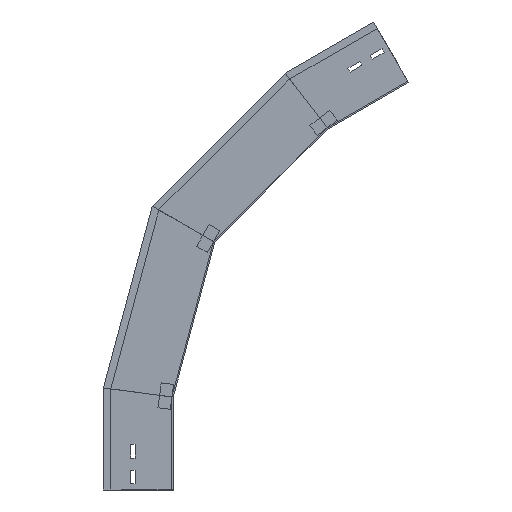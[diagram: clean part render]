
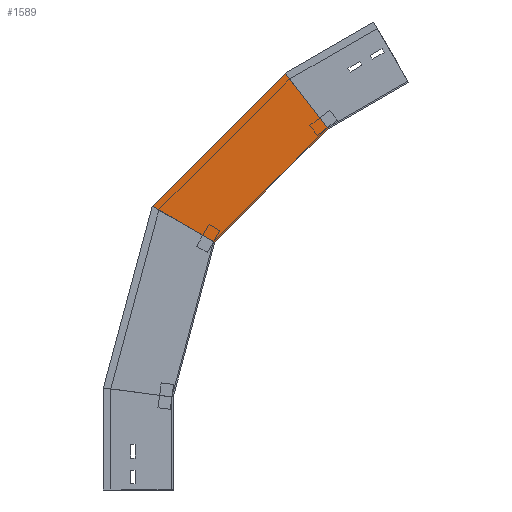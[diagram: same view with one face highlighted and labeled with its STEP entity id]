
A CAD part, left-side view. The second image highlights one B-rep face of the part: STEP entity #1589.
In plain terms, the highlighted planar face has unit normal (-1, 0, 0) as drawn and (1, 0, 0) by its records, which use the part's own axes.
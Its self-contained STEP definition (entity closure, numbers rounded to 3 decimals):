
#33 = CARTESIAN_POINT ( 'NONE',  ( 0., -128.762, 364.536 ) ) ;
#74 = VECTOR ( 'NONE', #1507, 1000. ) ;
#146 = EDGE_LOOP ( 'NONE', ( #968, #1616, #212, #435 ) ) ;
#212 = ORIENTED_EDGE ( 'NONE', *, *, #633, .F. ) ;
#245 = CARTESIAN_POINT ( 'NONE',  ( 0., -19.411, 147.444 ) ) ;
#275 = VERTEX_POINT ( 'NONE', #1124 ) ;
#281 = DIRECTION ( 'NONE',  ( 0., 0., -1. ) ) ;
#318 = DIRECTION ( 'NONE',  ( 1., 0., 0. ) ) ;
#427 = CARTESIAN_POINT ( 'NONE',  ( 0., 33.831, 458.409 ) ) ;
#431 = EDGE_CURVE ( 'NONE', #275, #771, #1691, .T. ) ;
#435 = ORIENTED_EDGE ( 'NONE', *, *, #431, .F. ) ;
#488 = VERTEX_POINT ( 'NONE', #427 ) ;
#553 = DIRECTION ( 'NONE',  ( 0., -0.259, 0.966 ) ) ;
#596 = LINE ( 'NONE', #863, #74 ) ;
#612 = FACE_OUTER_BOUND ( 'NONE', #146, .T. ) ;
#629 = CARTESIAN_POINT ( 'NONE',  ( 0., 0., 150. ) ) ;
#633 = EDGE_CURVE ( 'NONE', #771, #658, #596, .T. ) ;
#658 = VERTEX_POINT ( 'NONE', #965 ) ;
#677 = LINE ( 'NONE', #1180, #1218 ) ;
#708 = DIRECTION ( 'NONE',  ( 0., -0.866, -0.5 ) ) ;
#721 = VECTOR ( 'NONE', #708, 1000. ) ;
#746 = DIRECTION ( 'NONE',  ( 0., -0.991, -0.131 ) ) ;
#771 = VERTEX_POINT ( 'NONE', #629 ) ;
#857 = AXIS2_PLACEMENT_3D ( 'NONE', #1123, #318, #281 ) ;
#863 = CARTESIAN_POINT ( 'NONE',  ( 0., 4.243, 134.167 ) ) ;
#905 = VECTOR ( 'NONE', #746, 1000. ) ;
#912 = EDGE_CURVE ( 'NONE', #488, #658, #1238, .T. ) ;
#965 = CARTESIAN_POINT ( 'NONE',  ( 0., -67.034, 400.175 ) ) ;
#968 = ORIENTED_EDGE ( 'NONE', *, *, #1176, .T. ) ;
#1123 = CARTESIAN_POINT ( 'NONE',  ( 0., 4.243, 134.167 ) ) ;
#1124 = CARTESIAN_POINT ( 'NONE',  ( 0., 112.5, 164.811 ) ) ;
#1176 = EDGE_CURVE ( 'NONE', #275, #488, #677, .T. ) ;
#1180 = CARTESIAN_POINT ( 'NONE',  ( 0., 112.909, 163.284 ) ) ;
#1218 = VECTOR ( 'NONE', #553, 1000. ) ;
#1238 = LINE ( 'NONE', #33, #721 ) ;
#1453 = PLANE ( 'NONE',  #857 ) ;
#1507 = DIRECTION ( 'NONE',  ( 0., -0.259, 0.966 ) ) ;
#1589 = ADVANCED_FACE ( 'NONE', ( #612 ), #1453, .T. ) ;
#1616 = ORIENTED_EDGE ( 'NONE', *, *, #912, .T. ) ;
#1691 = LINE ( 'NONE', #245, #905 ) ;
